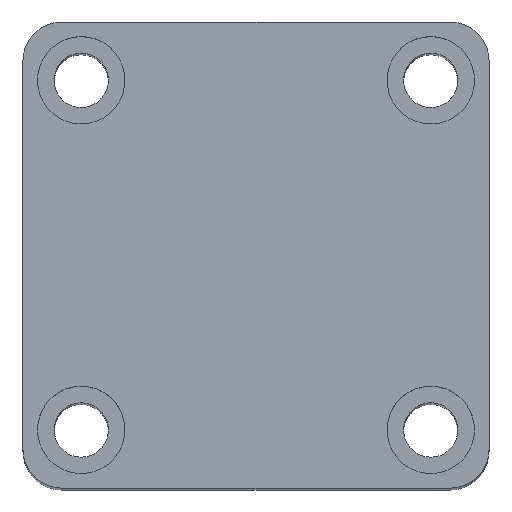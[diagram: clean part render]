
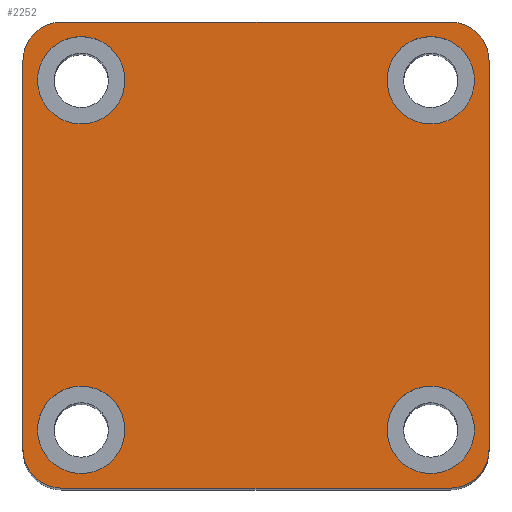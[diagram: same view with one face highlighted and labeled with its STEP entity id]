
A CAD part, top view. The second image highlights one B-rep face of the part: STEP entity #2252.
In plain terms, the highlighted planar face has unit normal (0, 0, 1).
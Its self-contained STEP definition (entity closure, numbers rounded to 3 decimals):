
#120 = VERTEX_POINT ( 'NONE', #1607 ) ;
#121 = VERTEX_POINT ( 'NONE', #1639 ) ;
#125 = VERTEX_POINT ( 'NONE', #1603 ) ;
#127 = VERTEX_POINT ( 'NONE', #1592 ) ;
#128 = VERTEX_POINT ( 'NONE', #1591 ) ;
#138 = VERTEX_POINT ( 'NONE', #1579 ) ;
#145 = VERTEX_POINT ( 'NONE', #1563 ) ;
#155 = VERTEX_POINT ( 'NONE', #1533 ) ;
#276 = CIRCLE ( 'NONE', #1737, 4.5 ) ;
#279 = CIRCLE ( 'NONE', #1739, 4.5 ) ;
#338 = CIRCLE ( 'NONE', #1744, 4.5 ) ;
#344 = CIRCLE ( 'NONE', #1749, 4.5 ) ;
#396 = VECTOR ( 'NONE', #1663, 1000. ) ;
#400 = LINE ( 'NONE', #1669, #396 ) ;
#407 = VECTOR ( 'NONE', #1676, 1000. ) ;
#411 = VECTOR ( 'NONE', #1679, 1000. ) ;
#413 = VECTOR ( 'NONE', #1707, 1000. ) ;
#414 = LINE ( 'NONE', #1708, #407 ) ;
#418 = LINE ( 'NONE', #1685, #411 ) ;
#419 = LINE ( 'NONE', #1684, #413 ) ;
#577 = EDGE_LOOP ( 'NONE', ( #654, #655 ) ) ;
#579 = EDGE_LOOP ( 'NONE', ( #636, #787 ) ) ;
#580 = EDGE_LOOP ( 'NONE', ( #768, #780, #657, #790, #793, #691, #648, #682 ) ) ;
#583 = EDGE_LOOP ( 'NONE', ( #651, #652 ) ) ;
#584 = EDGE_LOOP ( 'NONE', ( #656, #659 ) ) ;
#636 = ORIENTED_EDGE ( 'NONE', *, *, #1321, .F. ) ;
#648 = ORIENTED_EDGE ( 'NONE', *, *, #1305, .T. ) ;
#651 = ORIENTED_EDGE ( 'NONE', *, *, #1320, .F. ) ;
#652 = ORIENTED_EDGE ( 'NONE', *, *, #2596, .F. ) ;
#654 = ORIENTED_EDGE ( 'NONE', *, *, #1319, .F. ) ;
#655 = ORIENTED_EDGE ( 'NONE', *, *, #2600, .F. ) ;
#656 = ORIENTED_EDGE ( 'NONE', *, *, #1318, .F. ) ;
#657 = ORIENTED_EDGE ( 'NONE', *, *, #1306, .T. ) ;
#659 = ORIENTED_EDGE ( 'NONE', *, *, #2637, .F. ) ;
#682 = ORIENTED_EDGE ( 'NONE', *, *, #1325, .T. ) ;
#691 = ORIENTED_EDGE ( 'NONE', *, *, #1324, .T. ) ;
#768 = ORIENTED_EDGE ( 'NONE', *, *, #1308, .T. ) ;
#780 = ORIENTED_EDGE ( 'NONE', *, *, #1322, .T. ) ;
#787 = ORIENTED_EDGE ( 'NONE', *, *, #2635, .F. ) ;
#790 = ORIENTED_EDGE ( 'NONE', *, *, #1323, .T. ) ;
#793 = ORIENTED_EDGE ( 'NONE', *, *, #1314, .T. ) ;
#847 = VERTEX_POINT ( 'NONE', #1501 ) ;
#851 = VERTEX_POINT ( 'NONE', #1508 ) ;
#857 = VERTEX_POINT ( 'NONE', #1488 ) ;
#861 = VERTEX_POINT ( 'NONE', #1475 ) ;
#863 = VERTEX_POINT ( 'NONE', #1468 ) ;
#887 = VERTEX_POINT ( 'NONE', #1407 ) ;
#902 = VERTEX_POINT ( 'NONE', #1713 ) ;
#904 = VERTEX_POINT ( 'NONE', #1719 ) ;
#1155 = DIRECTION ( 'NONE',  ( 1., 0., 0. ) ) ;
#1156 = DIRECTION ( 'NONE',  ( 0., 0., 1. ) ) ;
#1164 = PLANE ( 'NONE',  #1797 ) ;
#1168 = CARTESIAN_POINT ( 'NONE',  ( 0., 0., 110. ) ) ;
#1281 = AXIS2_PLACEMENT_3D ( 'NONE', #1632, #1631, #1630 ) ;
#1282 = AXIS2_PLACEMENT_3D ( 'NONE', #1637, #1636, #1635 ) ;
#1283 = AXIS2_PLACEMENT_3D ( 'NONE', #1641, #1640, #1638 ) ;
#1284 = AXIS2_PLACEMENT_3D ( 'NONE', #1644, #1643, #1642 ) ;
#1285 = AXIS2_PLACEMENT_3D ( 'NONE', #1648, #1647, #1646 ) ;
#1286 = AXIS2_PLACEMENT_3D ( 'NONE', #1651, #1650, #1649 ) ;
#1287 = AXIS2_PLACEMENT_3D ( 'NONE', #1654, #1653, #1652 ) ;
#1288 = AXIS2_PLACEMENT_3D ( 'NONE', #1657, #1656, #1655 ) ;
#1305 = EDGE_CURVE ( 'NONE', #155, #887, #419, .T. ) ;
#1306 = EDGE_CURVE ( 'NONE', #128, #120, #418, .T. ) ;
#1308 = EDGE_CURVE ( 'NONE', #138, #127, #414, .T. ) ;
#1314 = EDGE_CURVE ( 'NONE', #863, #121, #400, .T. ) ;
#1318 = EDGE_CURVE ( 'NONE', #145, #861, #2565, .T. ) ;
#1319 = EDGE_CURVE ( 'NONE', #125, #857, #2560, .T. ) ;
#1320 = EDGE_CURVE ( 'NONE', #847, #851, #2562, .T. ) ;
#1321 = EDGE_CURVE ( 'NONE', #902, #904, #2561, .T. ) ;
#1322 = EDGE_CURVE ( 'NONE', #127, #128, #2559, .T. ) ;
#1323 = EDGE_CURVE ( 'NONE', #120, #863, #2557, .T. ) ;
#1324 = EDGE_CURVE ( 'NONE', #121, #155, #2556, .T. ) ;
#1325 = EDGE_CURVE ( 'NONE', #887, #138, #2555, .T. ) ;
#1407 = CARTESIAN_POINT ( 'NONE',  ( 24., 20., 110. ) ) ;
#1468 = CARTESIAN_POINT ( 'NONE',  ( -20., -24., 110. ) ) ;
#1475 = CARTESIAN_POINT ( 'NONE',  ( -22.5, -18., 110. ) ) ;
#1488 = CARTESIAN_POINT ( 'NONE',  ( 13.5, 18., 110. ) ) ;
#1501 = CARTESIAN_POINT ( 'NONE',  ( -13.5, 18., 110. ) ) ;
#1508 = CARTESIAN_POINT ( 'NONE',  ( -22.5, 18., 110. ) ) ;
#1533 = CARTESIAN_POINT ( 'NONE',  ( 24., -20., 110. ) ) ;
#1563 = CARTESIAN_POINT ( 'NONE',  ( -13.5, -18., 110. ) ) ;
#1579 = CARTESIAN_POINT ( 'NONE',  ( 20., 24., 110. ) ) ;
#1591 = CARTESIAN_POINT ( 'NONE',  ( -24., 20., 110. ) ) ;
#1592 = CARTESIAN_POINT ( 'NONE',  ( -20., 24., 110. ) ) ;
#1603 = CARTESIAN_POINT ( 'NONE',  ( 22.5, 18., 110. ) ) ;
#1607 = CARTESIAN_POINT ( 'NONE',  ( -24., -20., 110. ) ) ;
#1630 = DIRECTION ( 'NONE',  ( 1., 0., 0. ) ) ;
#1631 = DIRECTION ( 'NONE',  ( 0., 0., 1. ) ) ;
#1632 = CARTESIAN_POINT ( 'NONE',  ( 20., 20., 110. ) ) ;
#1635 = DIRECTION ( 'NONE',  ( 1., 0., 0. ) ) ;
#1636 = DIRECTION ( 'NONE',  ( 0., 0., 1. ) ) ;
#1637 = CARTESIAN_POINT ( 'NONE',  ( 20., -20., 110. ) ) ;
#1638 = DIRECTION ( 'NONE',  ( 1., 0., 0. ) ) ;
#1639 = CARTESIAN_POINT ( 'NONE',  ( 20., -24., 110. ) ) ;
#1640 = DIRECTION ( 'NONE',  ( 0., 0., 1. ) ) ;
#1641 = CARTESIAN_POINT ( 'NONE',  ( -20., -20., 110. ) ) ;
#1642 = DIRECTION ( 'NONE',  ( 1., 0., 0. ) ) ;
#1643 = DIRECTION ( 'NONE',  ( 0., 0., 1. ) ) ;
#1644 = CARTESIAN_POINT ( 'NONE',  ( -20., 20., 110. ) ) ;
#1646 = DIRECTION ( 'NONE',  ( 1., 0., 0. ) ) ;
#1647 = DIRECTION ( 'NONE',  ( 0., 0., 1. ) ) ;
#1648 = CARTESIAN_POINT ( 'NONE',  ( 18., -18., 110. ) ) ;
#1649 = DIRECTION ( 'NONE',  ( 1., 0., 0. ) ) ;
#1650 = DIRECTION ( 'NONE',  ( 0., 0., 1. ) ) ;
#1651 = CARTESIAN_POINT ( 'NONE',  ( -18., 18., 110. ) ) ;
#1652 = DIRECTION ( 'NONE',  ( 1., 0., 0. ) ) ;
#1653 = DIRECTION ( 'NONE',  ( 0., 0., 1. ) ) ;
#1654 = CARTESIAN_POINT ( 'NONE',  ( 18., 18., 110. ) ) ;
#1655 = DIRECTION ( 'NONE',  ( 1., 0., 0. ) ) ;
#1656 = DIRECTION ( 'NONE',  ( 0., 0., 1. ) ) ;
#1657 = CARTESIAN_POINT ( 'NONE',  ( -18., -18., 110. ) ) ;
#1663 = DIRECTION ( 'NONE',  ( 1., 0., 0. ) ) ;
#1669 = CARTESIAN_POINT ( 'NONE',  ( -24., -24., 110. ) ) ;
#1676 = DIRECTION ( 'NONE',  ( -1., 0., 0. ) ) ;
#1679 = DIRECTION ( 'NONE',  ( 0., -1., 0. ) ) ;
#1684 = CARTESIAN_POINT ( 'NONE',  ( 24., 24., 110. ) ) ;
#1685 = CARTESIAN_POINT ( 'NONE',  ( -24., 24., 110. ) ) ;
#1707 = DIRECTION ( 'NONE',  ( 0., 1., 0. ) ) ;
#1708 = CARTESIAN_POINT ( 'NONE',  ( -24., 24., 110. ) ) ;
#1713 = CARTESIAN_POINT ( 'NONE',  ( 22.5, -18., 110. ) ) ;
#1719 = CARTESIAN_POINT ( 'NONE',  ( 13.5, -18., 110. ) ) ;
#1737 = AXIS2_PLACEMENT_3D ( 'NONE', #2238, #2237, #2234 ) ;
#1739 = AXIS2_PLACEMENT_3D ( 'NONE', #2082, #2081, #2250 ) ;
#1744 = AXIS2_PLACEMENT_3D ( 'NONE', #2209, #2204, #2205 ) ;
#1749 = AXIS2_PLACEMENT_3D ( 'NONE', #2229, #2227, #2228 ) ;
#1797 = AXIS2_PLACEMENT_3D ( 'NONE', #1168, #1156, #1155 ) ;
#2081 = DIRECTION ( 'NONE',  ( 0., 0., 1. ) ) ;
#2082 = CARTESIAN_POINT ( 'NONE',  ( 18., -18., 110. ) ) ;
#2204 = DIRECTION ( 'NONE',  ( 0., 0., 1. ) ) ;
#2205 = DIRECTION ( 'NONE',  ( 1., 0., 0. ) ) ;
#2209 = CARTESIAN_POINT ( 'NONE',  ( 18., 18., 110. ) ) ;
#2227 = DIRECTION ( 'NONE',  ( 0., 0., 1. ) ) ;
#2228 = DIRECTION ( 'NONE',  ( 1., 0., 0. ) ) ;
#2229 = CARTESIAN_POINT ( 'NONE',  ( -18., 18., 110. ) ) ;
#2234 = DIRECTION ( 'NONE',  ( 1., 0., 0. ) ) ;
#2237 = DIRECTION ( 'NONE',  ( 0., 0., 1. ) ) ;
#2238 = CARTESIAN_POINT ( 'NONE',  ( -18., -18., 110. ) ) ;
#2250 = DIRECTION ( 'NONE',  ( 1., 0., 0. ) ) ;
#2252 = ADVANCED_FACE ( 'NONE', ( #2494, #2481, #2483, #2482, #2480 ), #1164, .T. ) ;
#2480 = FACE_OUTER_BOUND ( 'NONE', #580, .T. ) ;
#2481 = FACE_BOUND ( 'NONE', #577, .T. ) ;
#2482 = FACE_BOUND ( 'NONE', #579, .T. ) ;
#2483 = FACE_BOUND ( 'NONE', #584, .T. ) ;
#2494 = FACE_BOUND ( 'NONE', #583, .T. ) ;
#2555 = CIRCLE ( 'NONE', #1281, 4. ) ;
#2556 = CIRCLE ( 'NONE', #1282, 4. ) ;
#2557 = CIRCLE ( 'NONE', #1283, 4. ) ;
#2559 = CIRCLE ( 'NONE', #1284, 4. ) ;
#2560 = CIRCLE ( 'NONE', #1287, 4.5 ) ;
#2561 = CIRCLE ( 'NONE', #1285, 4.5 ) ;
#2562 = CIRCLE ( 'NONE', #1286, 4.5 ) ;
#2565 = CIRCLE ( 'NONE', #1288, 4.5 ) ;
#2596 = EDGE_CURVE ( 'NONE', #851, #847, #344, .T. ) ;
#2600 = EDGE_CURVE ( 'NONE', #857, #125, #338, .T. ) ;
#2635 = EDGE_CURVE ( 'NONE', #904, #902, #279, .T. ) ;
#2637 = EDGE_CURVE ( 'NONE', #861, #145, #276, .T. ) ;
